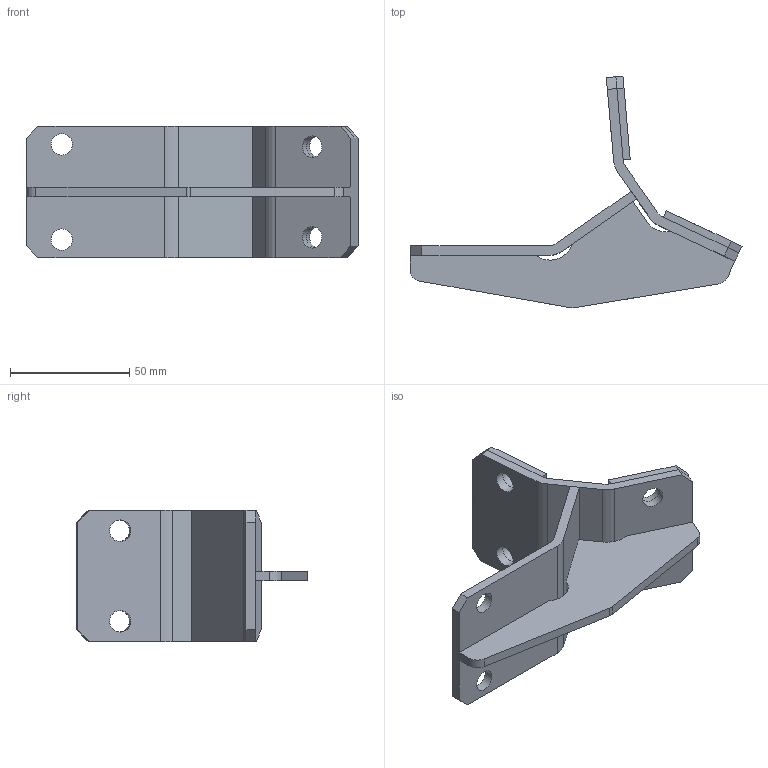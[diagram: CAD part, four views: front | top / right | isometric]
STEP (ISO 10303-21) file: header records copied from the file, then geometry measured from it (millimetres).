
FILE_DESCRIPTION(/* description */ ('SUPPORT FILTRE','CAx-IF Rec.Pracs.---Representation and Presentation of Product Manufacturing Information (PMI)---4.0---2014-10-13'),/* implementation_level */ '2;1');
FILE_NAME(/* name */ 'vv180803-A.stp',/* time_stamp */ '2025-10-14T13:22:30+02:00',/* author */ ('RIVIERE C.'),/* organization */ (''),/* preprocessor_version */ 'ST-DEVELOPER v20',/* originating_system */ 'Autodesk Inventor 2025',/* authorisation */ '');
FILE_SCHEMA (('AP242_MANAGED_MODEL_BASED_3D_ENGINEERING_MIM_LF { 1 0 10303 442 1 1 4 }'));
Length unit declared in the file: millimetre
Products named in the file (1): VICTOR.V.18.08.03
Bounding box: 139.28 x 97.2 x 55 mm (x, y, z)
Volume: 64846.1 mm3; surface area: 39915.7 mm2
Topology: 5 solids, 5 shells, 71 faces, 183 edges, 122 vertices
Faces by surface type: plane 50, cylinder 21
Full cylindrical faces by diameter (mm): 9 x10
Entity records: 2746 total; most frequent: CARTESIAN_POINT 539, DIRECTION 429, ORIENTED_EDGE 366, EDGE_CURVE 183, AXIS2_PLACEMENT_3D 144, LINE 141, VECTOR 141, VERTEX_POINT 122
